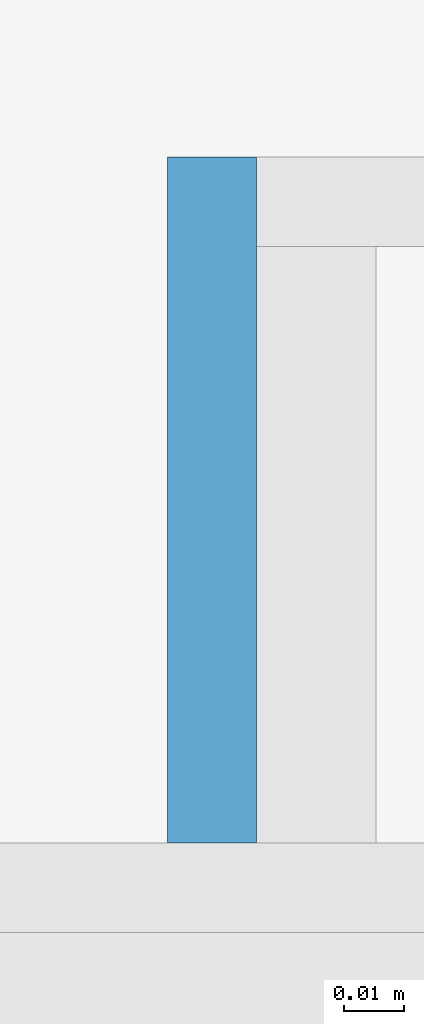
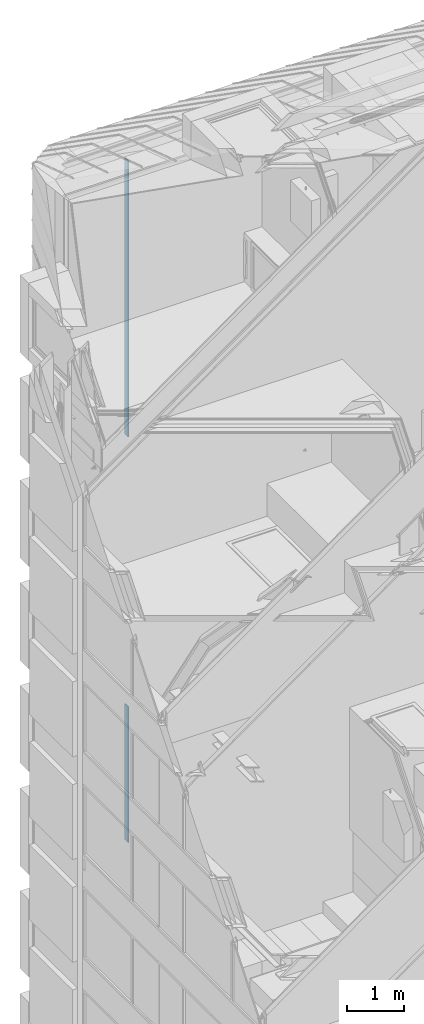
# One storey, part 275 of 583: 2 slabs.
"""IFC2X3 building model written with IfcOpenShell, lengths in metres."""

from ifc_helpers import new_model, entity, si_unit, converted_unit, derived_unit, money_unit, direction, frame, origin_with_axes, place, context, subcontext, project, spatial, faceted_brep, material, type_object, element, save


model = new_model("IFC2X3")

# Units and contexts
model_context = context("Model", 3, precision=1e-05, world=origin_with_axes(), true_north=direction((0.0, 1.0)))
body_context = subcontext(model_context, "Body", "Model", "MODEL_VIEW", scale=1.0)
ifc_project = project(units=[si_unit("LENGTHUNIT", "METRE"), si_unit("AREAUNIT", "SQUARE_METRE"), si_unit("VOLUMEUNIT", "CUBIC_METRE"), si_unit("ABSORBEDDOSEUNIT", "GRAY"), si_unit("AMOUNTOFSUBSTANCEUNIT", "MOLE"), si_unit("DOSEEQUIVALENTUNIT", "SIEVERT"), si_unit("ELECTRICCAPACITANCEUNIT", "FARAD"), si_unit("ELECTRICCHARGEUNIT", "COULOMB"), si_unit("ELECTRICCONDUCTANCEUNIT", "SIEMENS"), si_unit("ELECTRICCURRENTUNIT", "AMPERE"), si_unit("ELECTRICRESISTANCEUNIT", "OHM"), si_unit("ELECTRICVOLTAGEUNIT", "VOLT"), si_unit("ENERGYUNIT", "JOULE"), si_unit("FORCEUNIT", "NEWTON"), si_unit("FREQUENCYUNIT", "HERTZ"), si_unit("ILLUMINANCEUNIT", "LUX"), si_unit("INDUCTANCEUNIT", "HENRY"), si_unit("LUMINOUSFLUXUNIT", "LUMEN"), si_unit("LUMINOUSINTENSITYUNIT", "CANDELA"), si_unit("MAGNETICFLUXDENSITYUNIT", "TESLA"), si_unit("MAGNETICFLUXUNIT", "WEBER"), si_unit("MASSUNIT", "GRAM"), converted_unit("PLANEANGLEUNIT", "degree", entity("IfcReal", 0.0174532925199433), si_unit("PLANEANGLEUNIT", "RADIAN"), dimensions=[0, 0, 0, 0, 0, 0, 0]), si_unit("POWERUNIT", "WATT"), si_unit("PRESSUREUNIT", "PASCAL"), si_unit("RADIOACTIVITYUNIT", "BECQUEREL"), si_unit("SOLIDANGLEUNIT", "STERADIAN"), si_unit("THERMODYNAMICTEMPERATUREUNIT", "KELVIN"), si_unit("TIMEUNIT", "SECOND"), derived_unit("ACCELERATIONUNIT", [(si_unit("LENGTHUNIT", "METRE"), 1), (si_unit("TIMEUNIT", "SECOND"), -2)]), derived_unit("ANGULARVELOCITYUNIT", [(converted_unit("PLANEANGLEUNIT", "degree", entity("IfcReal", 0.0174532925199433), si_unit("PLANEANGLEUNIT", "RADIAN"), dimensions=[0, 0, 0, 0, 0, 0, 0]), 1), (si_unit("TIMEUNIT", "SECOND"), -1)]), derived_unit("CURVATUREUNIT", [(converted_unit("PLANEANGLEUNIT", "degree", entity("IfcReal", 0.0174532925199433), si_unit("PLANEANGLEUNIT", "RADIAN"), dimensions=[0, 0, 0, 0, 0, 0, 0]), 1), (si_unit("LENGTHUNIT", "METRE"), -1)]), derived_unit("DYNAMICVISCOSITYUNIT", [(si_unit("PRESSUREUNIT", "PASCAL"), 1), (si_unit("TIMEUNIT", "SECOND"), 1)]), derived_unit("HEATFLUXDENSITYUNIT", [(si_unit("POWERUNIT", "WATT"), 1), (si_unit("LENGTHUNIT", "METRE"), -2)]), derived_unit("HEATINGVALUEUNIT", [(si_unit("ENERGYUNIT", "JOULE"), 1), (si_unit("MASSUNIT", "GRAM"), -1)]), derived_unit("INTEGERCOUNTRATEUNIT", [(si_unit("TIMEUNIT", "SECOND"), -1)]), derived_unit("IONCONCENTRATIONUNIT", [(si_unit("MASSUNIT", "GRAM"), 1), (si_unit("VOLUMEUNIT", "CUBIC_METRE"), -1)]), derived_unit("ISOTHERMALMOISTURECAPACITYUNIT", [(si_unit("VOLUMEUNIT", "CUBIC_METRE"), 1), (si_unit("MASSUNIT", "GRAM"), -1)]), derived_unit("KINEMATICVISCOSITYUNIT", [(si_unit("AREAUNIT", "SQUARE_METRE"), 1), (si_unit("TIMEUNIT", "SECOND"), -1)]), derived_unit("LINEARFORCEUNIT", [(si_unit("FORCEUNIT", "NEWTON"), 1), (si_unit("LENGTHUNIT", "METRE"), -1)]), derived_unit("LINEARMOMENTUNIT", [(si_unit("FORCEUNIT", "NEWTON"), 1), (si_unit("LENGTHUNIT", "METRE"), -1)]), derived_unit("LINEARSTIFFNESSUNIT", [(si_unit("FORCEUNIT", "NEWTON"), 1), (si_unit("LENGTHUNIT", "METRE"), -1)]), derived_unit("LINEARVELOCITYUNIT", [(si_unit("LENGTHUNIT", "METRE"), 1), (si_unit("TIMEUNIT", "SECOND"), -1)]), derived_unit("LUMINOUSINTENSITYDISTRIBUTIONUNIT", [(si_unit("LUMINOUSINTENSITYUNIT", "CANDELA"), 1), (si_unit("LUMINOUSFLUXUNIT", "LUMEN"), -1)]), derived_unit("MASSDENSITYUNIT", [(si_unit("MASSUNIT", "GRAM"), 1), (si_unit("VOLUMEUNIT", "CUBIC_METRE"), -1)]), derived_unit("MASSFLOWRATEUNIT", [(si_unit("MASSUNIT", "GRAM"), 1), (si_unit("TIMEUNIT", "SECOND"), -1)]), derived_unit("MASSPERLENGTHUNIT", [(si_unit("MASSUNIT", "GRAM"), 1), (si_unit("LENGTHUNIT", "METRE"), -1)]), derived_unit("MODULUSOFELASTICITYUNIT", [(si_unit("FORCEUNIT", "NEWTON"), 1), (si_unit("AREAUNIT", "SQUARE_METRE"), -1)]), derived_unit("MODULUSOFLINEARSUBGRADEREACTIONUNIT", [(si_unit("FORCEUNIT", "NEWTON"), 1), (si_unit("LENGTHUNIT", "METRE"), -2)]), derived_unit("MODULUSOFROTATIONALSUBGRADEREACTIONUNIT", [(si_unit("FORCEUNIT", "NEWTON"), 1), (si_unit("LENGTHUNIT", "METRE"), 1)]), derived_unit("MODULUSOFSUBGRADEREACTIONUNIT", [(si_unit("FORCEUNIT", "NEWTON"), 1), (si_unit("VOLUMEUNIT", "CUBIC_METRE"), -1)]), derived_unit("MOISTUREDIFFUSIVITYUNIT", [(si_unit("VOLUMEUNIT", "CUBIC_METRE"), 1), (si_unit("TIMEUNIT", "SECOND"), -1)]), derived_unit("MOLECULARWEIGHTUNIT", [(si_unit("MASSUNIT", "GRAM"), 1), (si_unit("AMOUNTOFSUBSTANCEUNIT", "MOLE"), -1)]), derived_unit("PLANARFORCEUNIT", [(si_unit("FORCEUNIT", "NEWTON"), 1), (si_unit("LENGTHUNIT", "METRE"), -2)]), derived_unit("ROTATIONALFREQUENCYUNIT", [(si_unit("TIMEUNIT", "SECOND"), -1)]), derived_unit("ROTATIONALMASSUNIT", [(si_unit("MASSUNIT", "GRAM"), 1), (si_unit("LENGTHUNIT", "METRE"), 2)]), derived_unit("ROTATIONALSTIFFNESSUNIT", [(si_unit("FORCEUNIT", "NEWTON"), 1), (si_unit("LENGTHUNIT", "METRE"), 1), (converted_unit("PLANEANGLEUNIT", "degree", entity("IfcReal", 0.0174532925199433), si_unit("PLANEANGLEUNIT", "RADIAN"), dimensions=[0, 0, 0, 0, 0, 0, 0]), -1)]), derived_unit("SECTIONAREAINTEGRALUNIT", [(si_unit("LENGTHUNIT", "METRE"), 5)]), derived_unit("SECTIONMODULUSUNIT", [(si_unit("LENGTHUNIT", "METRE"), 3)]), derived_unit("SHEARMODULUSUNIT", [(si_unit("FORCEUNIT", "NEWTON"), 1), (si_unit("AREAUNIT", "SQUARE_METRE"), -1)]), derived_unit("SOUNDPOWERUNIT", [(si_unit("ENERGYUNIT", "JOULE"), 1), (si_unit("TIMEUNIT", "SECOND"), -1)]), derived_unit("SPECIFICHEATCAPACITYUNIT", [(si_unit("FORCEUNIT", "NEWTON"), 1), (si_unit("MASSUNIT", "GRAM"), -1), (si_unit("THERMODYNAMICTEMPERATUREUNIT", "KELVIN"), -1)]), derived_unit("TEMPERATUREGRADIENTUNIT", [(si_unit("THERMODYNAMICTEMPERATUREUNIT", "KELVIN"), 1), (si_unit("LENGTHUNIT", "METRE"), -1)]), derived_unit("THERMALADMITTANCEUNIT", [(si_unit("POWERUNIT", "WATT"), 1), (si_unit("AREAUNIT", "SQUARE_METRE"), -1), (si_unit("THERMODYNAMICTEMPERATUREUNIT", "KELVIN"), -1)]), derived_unit("THERMALCONDUCTANCEUNIT", [(si_unit("POWERUNIT", "WATT"), 1), (si_unit("LENGTHUNIT", "METRE"), -1), (si_unit("THERMODYNAMICTEMPERATUREUNIT", "KELVIN"), -1)]), derived_unit("THERMALEXPANSIONCOEFFICIENTUNIT", [(si_unit("THERMODYNAMICTEMPERATUREUNIT", "KELVIN"), -1)]), derived_unit("THERMALRESISTANCEUNIT", [(si_unit("AREAUNIT", "SQUARE_METRE"), 1), (si_unit("POWERUNIT", "WATT"), -1)]), derived_unit("THERMALTRANSMITTANCEUNIT", [(si_unit("POWERUNIT", "WATT"), 1), (si_unit("AREAUNIT", "SQUARE_METRE"), -1), (si_unit("THERMODYNAMICTEMPERATUREUNIT", "KELVIN"), -1)]), derived_unit("TORQUEUNIT", [(si_unit("FORCEUNIT", "NEWTON"), 1), (si_unit("LENGTHUNIT", "METRE"), 1)]), derived_unit("VAPORPERMEABILITYUNIT", [(si_unit("MASSUNIT", "GRAM"), 1), (si_unit("TIMEUNIT", "SECOND"), -1)]), derived_unit("VOLUMETRICFLOWRATEUNIT", [(si_unit("VOLUMEUNIT", "CUBIC_METRE"), 1), (si_unit("TIMEUNIT", "SECOND"), -1)]), derived_unit("WARPINGCONSTANTUNIT", [(si_unit("LENGTHUNIT", "METRE"), 6)]), derived_unit("WARPINGMOMENTUNIT", [(si_unit("FORCEUNIT", "NEWTON"), 1), (si_unit("LENGTHUNIT", "METRE"), 2)]), money_unit("GBP")], contexts=[model_context])

# Site, building, storey
site_placement = place(None, origin_with_axes())
site = spatial("IfcSite", under=ifc_project, at=site_placement, Name="Site", CompositionType="ELEMENT")
building_placement = place(site_placement, origin_with_axes())
building = spatial("IfcBuilding", under=site, at=building_placement, Name="Building01", CompositionType="ELEMENT")
storey_placement = place(building_placement, frame((0.0, 0.0, 20.78), z_axis=(0.0, 0.0, 1.0), x_axis=(1.0, 0.0, 0.0)))
storey = spatial("IfcBuildingStorey", under=building, at=storey_placement, Name="RL", CompositionType="ELEMENT", Elevation=20.78)

# Slabs
ifc_material = material(Name="A_BSUK_CeilingSoffitFinishes_Suspended")
slab_type = type_object("IfcSlabType", Name="A-FloorsSlabs A_BSUK_Slabs", PredefinedType="FLOOR")
placement = place(storey_placement, frame((0.0, 0.0, -20.78), z_axis=(0.0, 0.0, 1.0), x_axis=(1.0, 0.0, 0.0)))
element("IfcSlab", 1, at=placement, inside=storey, type_object=slab_type, material=ifc_material, Name="A-FloorsSlabs A_BSUK_Slabs", ObjectType="CompoundSlabLeaf", context=body_context, shape_type="Brep", body=[
    faceted_brep([(4.0734, 20.195, 23.9), (4.0884, 20.195, 23.9), (4.0884, 20.31, 23.9), (4.0734, 20.31, 23.9), (4.0734, 20.195, 18.0), (4.0884, 20.195, 18.0), (4.0734, 20.31, 18.0), (4.0884, 20.31, 18.0)], [[[0, 1, 2, 3]], [[4, 5, 1, 0]], [[6, 7, 5, 4]], [[3, 2, 7, 6]], [[1, 5, 7, 2]], [[3, 6, 4, 0]]]),
])
element("IfcSlab", 2, at=placement, inside=storey, type_object=slab_type, material=ifc_material, Name="A-FloorsSlabs A_BSUK_Slabs", ObjectType="CompoundSlabLeaf", context=body_context, shape_type="Brep", body=[
    faceted_brep([(4.0734, 20.195, 12.25), (4.0884, 20.195, 12.25), (4.0884, 20.31, 12.25), (4.0734, 20.31, 12.25), (4.0734, 20.195, 9.35), (4.0884, 20.195, 9.35), (4.0734, 20.31, 9.35), (4.0884, 20.31, 9.35)], [[[0, 1, 2, 3]], [[4, 5, 1, 0]], [[6, 7, 5, 4]], [[3, 2, 7, 6]], [[1, 5, 7, 2]], [[3, 6, 4, 0]]]),
])

save(model, "model.ifc")
